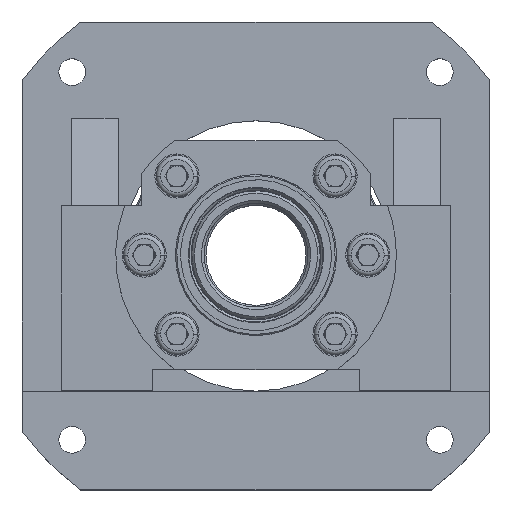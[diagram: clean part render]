
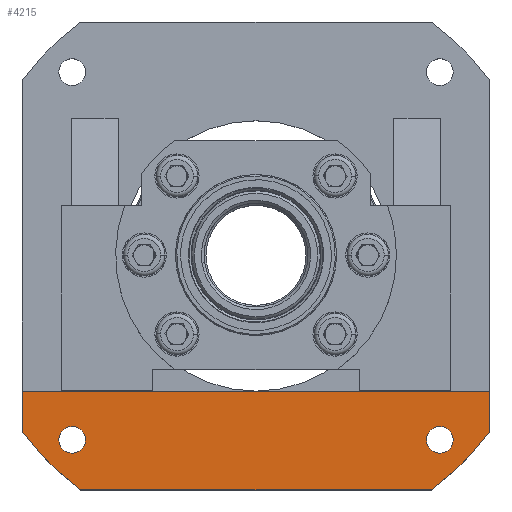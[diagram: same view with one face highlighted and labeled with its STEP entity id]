
A CAD part, top view. The second image highlights one B-rep face of the part: STEP entity #4215.
In plain terms, the highlighted planar face has unit normal (0, 0, 1).
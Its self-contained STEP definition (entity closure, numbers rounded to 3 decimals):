
#770 = ORIENTED_EDGE ( 'NONE', *, *, #21562, .T. ) ;
#827 = EDGE_LOOP ( 'NONE', ( #2956, #20636, #770, #12996, #8813, #15583 ) ) ;
#834 = CARTESIAN_POINT ( 'NONE',  ( 90., 90., 21. ) ) ;
#952 = EDGE_CURVE ( 'NONE', #4239, #14216, #23350, .T. ) ;
#1235 = AXIS2_PLACEMENT_3D ( 'NONE', #16991, #6748, #21148 ) ;
#1316 = CIRCLE ( 'NONE', #20005, 5.15 ) ;
#1404 = CARTESIAN_POINT ( 'NONE',  ( -75.861, -70.711, 21. ) ) ;
#1760 = CARTESIAN_POINT ( 'NONE',  ( 75.861, -70.711, 21. ) ) ;
#2887 = CIRCLE ( 'NONE', #6890, 112.5 ) ;
#2956 = ORIENTED_EDGE ( 'NONE', *, *, #8977, .F. ) ;
#3133 = EDGE_LOOP ( 'NONE', ( #22759, #24704 ) ) ;
#3945 = CARTESIAN_POINT ( 'NONE',  ( 0., 0., 21. ) ) ;
#4144 = AXIS2_PLACEMENT_3D ( 'NONE', #22138, #9821, #24205 ) ;
#4215 = ADVANCED_FACE ( 'NONE', ( #12983, #12328, #23292 ), #21055, .T. ) ;
#4239 = VERTEX_POINT ( 'NONE', #10888 ) ;
#5263 = DIRECTION ( 'NONE',  ( 0., 0., 1. ) ) ;
#5289 = EDGE_CURVE ( 'NONE', #19105, #22643, #12951, .T. ) ;
#5293 = CIRCLE ( 'NONE', #4144, 5.15 ) ;
#5993 = CARTESIAN_POINT ( 'NONE',  ( -90., 90., 21. ) ) ;
#6010 = DIRECTION ( 'NONE',  ( 1., 0., 0. ) ) ;
#6118 = DIRECTION ( 'NONE',  ( 1., 0., 0. ) ) ;
#6388 = CARTESIAN_POINT ( 'NONE',  ( 67.5, -90., 21. ) ) ;
#6748 = DIRECTION ( 'NONE',  ( 0., 0., 1. ) ) ;
#6890 = AXIS2_PLACEMENT_3D ( 'NONE', #3945, #18322, #6010 ) ;
#7284 = CARTESIAN_POINT ( 'NONE',  ( 0., 0., 21. ) ) ;
#8241 = DIRECTION ( 'NONE',  ( 0., 0., 1. ) ) ;
#8251 = EDGE_LOOP ( 'NONE', ( #20813, #11151 ) ) ;
#8726 = VERTEX_POINT ( 'NONE', #21953 ) ;
#8813 = ORIENTED_EDGE ( 'NONE', *, *, #9066, .T. ) ;
#8846 = AXIS2_PLACEMENT_3D ( 'NONE', #20550, #8241, #22646 ) ;
#8977 = EDGE_CURVE ( 'NONE', #9757, #18750, #9638, .T. ) ;
#9066 = EDGE_CURVE ( 'NONE', #14216, #26384, #2887, .T. ) ;
#9343 = DIRECTION ( 'NONE',  ( 1., 0., 0. ) ) ;
#9638 = LINE ( 'NONE', #20219, #14467 ) ;
#9757 = VERTEX_POINT ( 'NONE', #24839 ) ;
#9790 = CIRCLE ( 'NONE', #13353, 112.5 ) ;
#9821 = DIRECTION ( 'NONE',  ( 0., 0., 1. ) ) ;
#10888 = CARTESIAN_POINT ( 'NONE',  ( -67.5, -90., 21. ) ) ;
#11151 = ORIENTED_EDGE ( 'NONE', *, *, #13869, .F. ) ;
#11335 = CARTESIAN_POINT ( 'NONE',  ( 90., -67.5, 21. ) ) ;
#11340 = DIRECTION ( 'NONE',  ( 0., 0., 1. ) ) ;
#12328 = FACE_BOUND ( 'NONE', #3133, .T. ) ;
#12951 = CIRCLE ( 'NONE', #8846, 5.15 ) ;
#12983 = FACE_OUTER_BOUND ( 'NONE', #827, .T. ) ;
#12996 = ORIENTED_EDGE ( 'NONE', *, *, #952, .T. ) ;
#13353 = AXIS2_PLACEMENT_3D ( 'NONE', #7284, #21680, #9343 ) ;
#13869 = EDGE_CURVE ( 'NONE', #8726, #18330, #5293, .T. ) ;
#14216 = VERTEX_POINT ( 'NONE', #6388 ) ;
#14467 = VECTOR ( 'NONE', #18158, 1000. ) ;
#15414 = EDGE_CURVE ( 'NONE', #26384, #18750, #16488, .T. ) ;
#15583 = ORIENTED_EDGE ( 'NONE', *, *, #15414, .T. ) ;
#16437 = VECTOR ( 'NONE', #22454, 1000. ) ;
#16440 = EDGE_CURVE ( 'NONE', #18330, #8726, #21952, .T. ) ;
#16488 = LINE ( 'NONE', #834, #21355 ) ;
#16541 = AXIS2_PLACEMENT_3D ( 'NONE', #17577, #5263, #19645 ) ;
#16817 = CARTESIAN_POINT ( 'NONE',  ( -90., -90., 21. ) ) ;
#16991 = CARTESIAN_POINT ( 'NONE',  ( -104.626, -112., 21. ) ) ;
#17035 = CARTESIAN_POINT ( 'NONE',  ( 65.561, -70.711, 21. ) ) ;
#17217 = VECTOR ( 'NONE', #6118, 1000. ) ;
#17279 = DIRECTION ( 'NONE',  ( 0., 1., 0. ) ) ;
#17577 = CARTESIAN_POINT ( 'NONE',  ( -70.711, -70.711, 21. ) ) ;
#17602 = EDGE_CURVE ( 'NONE', #9757, #20530, #22571, .T. ) ;
#18158 = DIRECTION ( 'NONE',  ( 1., 0., 0. ) ) ;
#18322 = DIRECTION ( 'NONE',  ( 0., 0., 1. ) ) ;
#18330 = VERTEX_POINT ( 'NONE', #1404 ) ;
#18699 = EDGE_CURVE ( 'NONE', #22643, #19105, #1316, .T. ) ;
#18750 = VERTEX_POINT ( 'NONE', #21594 ) ;
#19105 = VERTEX_POINT ( 'NONE', #1760 ) ;
#19645 = DIRECTION ( 'NONE',  ( 1., 0., 0. ) ) ;
#20005 = AXIS2_PLACEMENT_3D ( 'NONE', #23669, #11340, #25719 ) ;
#20219 = CARTESIAN_POINT ( 'NONE',  ( -91.047, -52.01, 21. ) ) ;
#20530 = VERTEX_POINT ( 'NONE', #21268 ) ;
#20550 = CARTESIAN_POINT ( 'NONE',  ( 70.711, -70.711, 21. ) ) ;
#20636 = ORIENTED_EDGE ( 'NONE', *, *, #17602, .T. ) ;
#20813 = ORIENTED_EDGE ( 'NONE', *, *, #16440, .F. ) ;
#21055 = PLANE ( 'NONE',  #1235 ) ;
#21148 = DIRECTION ( 'NONE',  ( 1., 0., 0. ) ) ;
#21268 = CARTESIAN_POINT ( 'NONE',  ( -90., -67.5, 21. ) ) ;
#21355 = VECTOR ( 'NONE', #17279, 1000. ) ;
#21562 = EDGE_CURVE ( 'NONE', #20530, #4239, #9790, .T. ) ;
#21594 = CARTESIAN_POINT ( 'NONE',  ( 90., -52.01, 21. ) ) ;
#21680 = DIRECTION ( 'NONE',  ( 0., 0., 1. ) ) ;
#21952 = CIRCLE ( 'NONE', #16541, 5.15 ) ;
#21953 = CARTESIAN_POINT ( 'NONE',  ( -65.561, -70.711, 21. ) ) ;
#22138 = CARTESIAN_POINT ( 'NONE',  ( -70.711, -70.711, 21. ) ) ;
#22454 = DIRECTION ( 'NONE',  ( 0., -1., 0. ) ) ;
#22571 = LINE ( 'NONE', #5993, #16437 ) ;
#22643 = VERTEX_POINT ( 'NONE', #17035 ) ;
#22646 = DIRECTION ( 'NONE',  ( 1., 0., 0. ) ) ;
#22759 = ORIENTED_EDGE ( 'NONE', *, *, #18699, .F. ) ;
#23292 = FACE_BOUND ( 'NONE', #8251, .T. ) ;
#23350 = LINE ( 'NONE', #16817, #17217 ) ;
#23669 = CARTESIAN_POINT ( 'NONE',  ( 70.711, -70.711, 21. ) ) ;
#24205 = DIRECTION ( 'NONE',  ( 1., 0., 0. ) ) ;
#24704 = ORIENTED_EDGE ( 'NONE', *, *, #5289, .F. ) ;
#24839 = CARTESIAN_POINT ( 'NONE',  ( -90., -52.01, 21. ) ) ;
#25719 = DIRECTION ( 'NONE',  ( 1., 0., 0. ) ) ;
#26384 = VERTEX_POINT ( 'NONE', #11335 ) ;
